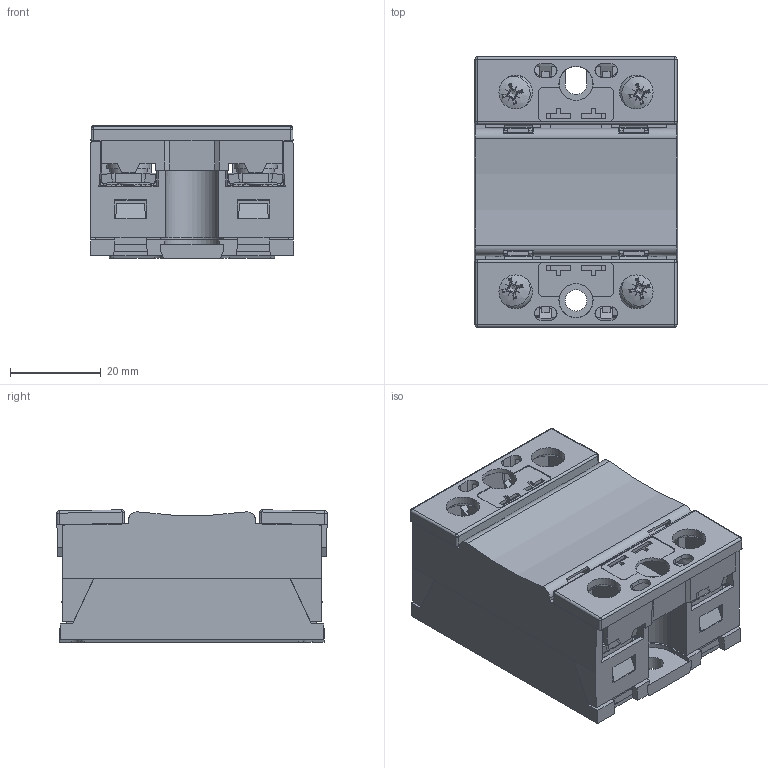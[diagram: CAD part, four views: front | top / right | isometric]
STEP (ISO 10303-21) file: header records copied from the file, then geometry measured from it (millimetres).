
FILE_DESCRIPTION(/* description */ (''),/* implementation_level */ '2;1');
FILE_NAME(/* name */ 'C:\Vault_local\Designs\Stock\3D pour clients\préparations\2D3D 555 B.stp',/* time_stamp */ '2022-01-07T09:37:46+01:00',/* author */ ('fbros'),/* organization */ (''),/* preprocessor_version */ 'ST-DEVELOPER v17',/* originating_system */ 'Autodesk Inventor 2018',/* authorisation */ '');
FILE_SCHEMA (('AUTOMOTIVE_DESIGN { 1 0 10303 214 3 1 1 }'));
Length unit declared in the file: millimetre
Products named in the file (1): ESO
Bounding box: 44.8 x 59.39 x 29.09 mm (x, y, z)
Volume: 44084.3 mm3; surface area: 28577.7 mm2
Topology: 1 solids, 1 shells, 1210 faces, 3559 edges, 2307 vertices
Faces by surface type: plane 719, cone 232, cylinder 195, bspline 32, torus 20, sphere 12
Full cylindrical faces by diameter (mm): 4.567 x4, 4.6 x4, 4.7 x1, 5 x4, 7.4 x4, 8 x4
Entity records: 45120 total; most frequent: CARTESIAN_POINT 12055, ORIENTED_EDGE 7110, DIRECTION 6283, EDGE_CURVE 3555, VERTEX_POINT 2307, LINE 2209, VECTOR 2209, AXIS2_PLACEMENT_3D 2037
